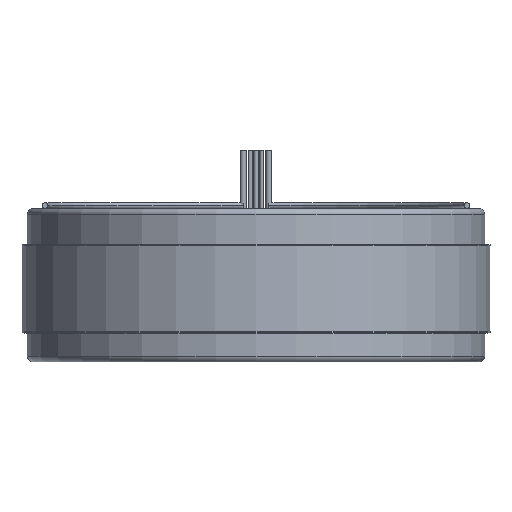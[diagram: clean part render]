
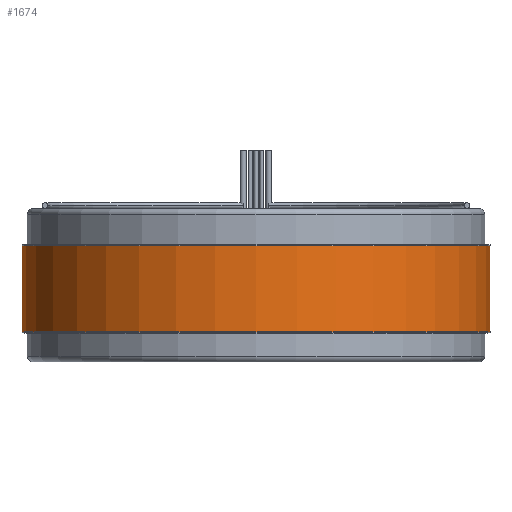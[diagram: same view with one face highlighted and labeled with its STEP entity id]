
A CAD part, front view. The second image highlights one B-rep face of the part: STEP entity #1674.
In plain terms, the highlighted cylindrical face has radius 101.6 mm (diameter 203.2 mm), a partial arc.
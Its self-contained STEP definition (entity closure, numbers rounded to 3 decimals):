
#19 = VERTEX_POINT ( 'NONE', #2038 ) ;
#43 = DIRECTION ( 'NONE',  ( 0., 0., 1. ) ) ;
#313 = CARTESIAN_POINT ( 'NONE',  ( 0., 0., 18.694 ) ) ;
#315 = AXIS2_PLACEMENT_3D ( 'NONE', #313, #1784, #1068 ) ;
#421 = EDGE_CURVE ( 'NONE', #515, #2492, #1047, .T. ) ;
#467 = CIRCLE ( 'NONE', #2438, 101.6 ) ;
#471 = VECTOR ( 'NONE', #1287, 1000. ) ;
#515 = VERTEX_POINT ( 'NONE', #769 ) ;
#524 = ORIENTED_EDGE ( 'NONE', *, *, #1185, .T. ) ;
#574 = EDGE_CURVE ( 'NONE', #515, #2333, #2881, .T. ) ;
#671 = ORIENTED_EDGE ( 'NONE', *, *, #2219, .F. ) ;
#683 = DIRECTION ( 'NONE',  ( 1., 0., 0. ) ) ;
#769 = CARTESIAN_POINT ( 'NONE',  ( -101.6, 0., 18.694 ) ) ;
#782 = CARTESIAN_POINT ( 'NONE',  ( -101.6, 0., 18.694 ) ) ;
#922 = DIRECTION ( 'NONE',  ( 0., 0., 1. ) ) ;
#934 = CARTESIAN_POINT ( 'NONE',  ( -101.6, 0., -18.694 ) ) ;
#1022 = ORIENTED_EDGE ( 'NONE', *, *, #574, .T. ) ;
#1047 = CIRCLE ( 'NONE', #1804, 101.6 ) ;
#1068 = DIRECTION ( 'NONE',  ( -1., 0., 0. ) ) ;
#1129 = CARTESIAN_POINT ( 'NONE',  ( 101.6, 0., 18.694 ) ) ;
#1185 = EDGE_CURVE ( 'NONE', #2333, #19, #467, .T. ) ;
#1199 = DIRECTION ( 'NONE',  ( 1., 0., 0. ) ) ;
#1256 = EDGE_LOOP ( 'NONE', ( #671, #2967, #1022, #524 ) ) ;
#1287 = DIRECTION ( 'NONE',  ( 0., 0., -1. ) ) ;
#1374 = DIRECTION ( 'NONE',  ( 0., 0., -1. ) ) ;
#1649 = LINE ( 'NONE', #1129, #1950 ) ;
#1674 = ADVANCED_FACE ( 'NONE', ( #2548 ), #2814, .T. ) ;
#1784 = DIRECTION ( 'NONE',  ( 0., 0., -1. ) ) ;
#1804 = AXIS2_PLACEMENT_3D ( 'NONE', #2673, #43, #1199 ) ;
#1888 = CARTESIAN_POINT ( 'NONE',  ( 101.6, 0., 18.694 ) ) ;
#1950 = VECTOR ( 'NONE', #1374, 1000. ) ;
#2038 = CARTESIAN_POINT ( 'NONE',  ( 101.6, 0., -18.694 ) ) ;
#2219 = EDGE_CURVE ( 'NONE', #2492, #19, #1649, .T. ) ;
#2333 = VERTEX_POINT ( 'NONE', #934 ) ;
#2390 = CARTESIAN_POINT ( 'NONE',  ( 0., 0., -18.694 ) ) ;
#2438 = AXIS2_PLACEMENT_3D ( 'NONE', #2390, #922, #683 ) ;
#2492 = VERTEX_POINT ( 'NONE', #1888 ) ;
#2548 = FACE_OUTER_BOUND ( 'NONE', #1256, .T. ) ;
#2673 = CARTESIAN_POINT ( 'NONE',  ( 0., 0., 18.694 ) ) ;
#2814 = CYLINDRICAL_SURFACE ( 'NONE', #315, 101.6 ) ;
#2881 = LINE ( 'NONE', #782, #471 ) ;
#2967 = ORIENTED_EDGE ( 'NONE', *, *, #421, .F. ) ;
